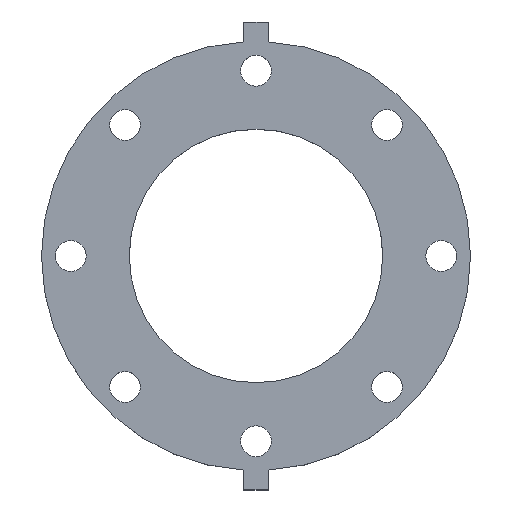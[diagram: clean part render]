
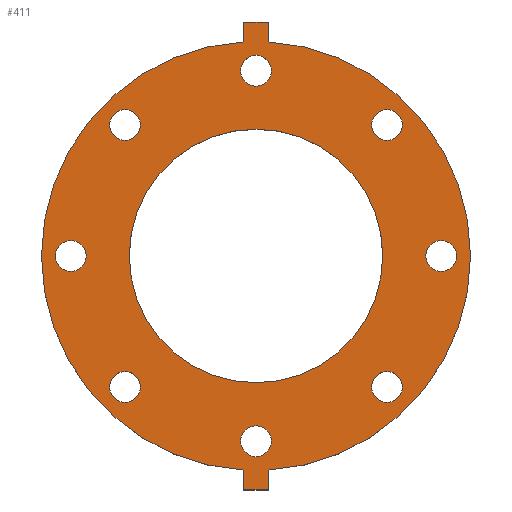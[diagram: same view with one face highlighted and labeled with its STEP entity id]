
A CAD part, top view. The second image highlights one B-rep face of the part: STEP entity #411.
In plain terms, the highlighted planar face has unit normal (0, 0, 1).
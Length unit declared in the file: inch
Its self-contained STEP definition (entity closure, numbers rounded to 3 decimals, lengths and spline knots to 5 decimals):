
#14=FACE_BOUND('',#77,.T.);
#15=FACE_BOUND('',#78,.T.);
#16=FACE_BOUND('',#79,.T.);
#17=FACE_BOUND('',#80,.T.);
#18=FACE_BOUND('',#81,.T.);
#19=FACE_BOUND('',#82,.T.);
#20=FACE_BOUND('',#83,.T.);
#21=FACE_BOUND('',#84,.T.);
#22=FACE_BOUND('',#85,.T.);
#38=PLANE('',#472);
#57=FACE_OUTER_BOUND('',#76,.T.);
#76=EDGE_LOOP('',(#329,#330,#331,#332,#333,#334,#335,#336));
#77=EDGE_LOOP('',(#337));
#78=EDGE_LOOP('',(#338));
#79=EDGE_LOOP('',(#339));
#80=EDGE_LOOP('',(#340));
#81=EDGE_LOOP('',(#341));
#82=EDGE_LOOP('',(#342));
#83=EDGE_LOOP('',(#343));
#84=EDGE_LOOP('',(#344));
#85=EDGE_LOOP('',(#345));
#111=LINE('',#665,#140);
#113=LINE('',#670,#142);
#116=LINE('',#674,#145);
#119=LINE('',#682,#148);
#122=LINE('',#686,#151);
#124=LINE('',#689,#153);
#140=VECTOR('',#559,0.3937);
#142=VECTOR('',#563,0.3937);
#145=VECTOR('',#568,0.3937);
#148=VECTOR('',#573,0.3937);
#151=VECTOR('',#578,0.3937);
#153=VECTOR('',#582,0.3937);
#154=CIRCLE('',#434,0.395);
#156=CIRCLE('',#437,0.395);
#158=CIRCLE('',#440,0.395);
#160=CIRCLE('',#443,0.395);
#162=CIRCLE('',#446,0.395);
#164=CIRCLE('',#449,0.395);
#166=CIRCLE('',#452,0.395);
#168=CIRCLE('',#455,0.395);
#171=CIRCLE('',#459,3.25);
#173=CIRCLE('',#462,5.5);
#174=CIRCLE('',#464,5.5);
#176=VERTEX_POINT('',#589);
#178=VERTEX_POINT('',#595);
#180=VERTEX_POINT('',#601);
#182=VERTEX_POINT('',#607);
#184=VERTEX_POINT('',#613);
#186=VERTEX_POINT('',#619);
#188=VERTEX_POINT('',#625);
#190=VERTEX_POINT('',#631);
#193=VERTEX_POINT('',#639);
#195=VERTEX_POINT('',#644);
#197=VERTEX_POINT('',#648);
#199=VERTEX_POINT('',#653);
#200=VERTEX_POINT('',#655);
#203=VERTEX_POINT('',#663);
#205=VERTEX_POINT('',#669);
#208=VERTEX_POINT('',#679);
#209=VERTEX_POINT('',#681);
#210=EDGE_CURVE('',#176,#176,#154,.T.);
#213=EDGE_CURVE('',#178,#178,#156,.T.);
#216=EDGE_CURVE('',#180,#180,#158,.T.);
#219=EDGE_CURVE('',#182,#182,#160,.T.);
#222=EDGE_CURVE('',#184,#184,#162,.T.);
#225=EDGE_CURVE('',#186,#186,#164,.T.);
#228=EDGE_CURVE('',#188,#188,#166,.T.);
#231=EDGE_CURVE('',#190,#190,#168,.T.);
#236=EDGE_CURVE('',#193,#193,#171,.T.);
#240=EDGE_CURVE('',#195,#197,#173,.T.);
#242=EDGE_CURVE('',#200,#199,#174,.T.);
#247=EDGE_CURVE('',#197,#203,#111,.T.);
#249=EDGE_CURVE('',#205,#200,#113,.T.);
#252=EDGE_CURVE('',#203,#205,#116,.T.);
#255=EDGE_CURVE('',#209,#208,#119,.T.);
#258=EDGE_CURVE('',#199,#209,#122,.T.);
#260=EDGE_CURVE('',#208,#195,#124,.T.);
#329=ORIENTED_EDGE('',*,*,#260,.T.);
#330=ORIENTED_EDGE('',*,*,#240,.T.);
#331=ORIENTED_EDGE('',*,*,#247,.T.);
#332=ORIENTED_EDGE('',*,*,#252,.T.);
#333=ORIENTED_EDGE('',*,*,#249,.T.);
#334=ORIENTED_EDGE('',*,*,#242,.T.);
#335=ORIENTED_EDGE('',*,*,#258,.T.);
#336=ORIENTED_EDGE('',*,*,#255,.T.);
#337=ORIENTED_EDGE('',*,*,#210,.T.);
#338=ORIENTED_EDGE('',*,*,#213,.T.);
#339=ORIENTED_EDGE('',*,*,#216,.T.);
#340=ORIENTED_EDGE('',*,*,#219,.T.);
#341=ORIENTED_EDGE('',*,*,#222,.T.);
#342=ORIENTED_EDGE('',*,*,#225,.T.);
#343=ORIENTED_EDGE('',*,*,#228,.T.);
#344=ORIENTED_EDGE('',*,*,#231,.T.);
#345=ORIENTED_EDGE('',*,*,#236,.T.);
#411=ADVANCED_FACE('',(#57,#14,#15,#16,#17,#18,#19,#20,#21,#22),#38,.T.);
#434=AXIS2_PLACEMENT_3D('',#590,#478,#479);
#437=AXIS2_PLACEMENT_3D('',#596,#485,#486);
#440=AXIS2_PLACEMENT_3D('',#602,#492,#493);
#443=AXIS2_PLACEMENT_3D('',#608,#499,#500);
#446=AXIS2_PLACEMENT_3D('',#614,#506,#507);
#449=AXIS2_PLACEMENT_3D('',#620,#513,#514);
#452=AXIS2_PLACEMENT_3D('',#626,#520,#521);
#455=AXIS2_PLACEMENT_3D('',#632,#527,#528);
#459=AXIS2_PLACEMENT_3D('',#641,#537,#538);
#462=AXIS2_PLACEMENT_3D('',#650,#545,#546);
#464=AXIS2_PLACEMENT_3D('',#656,#550,#551);
#472=AXIS2_PLACEMENT_3D('',#690,#583,#584);
#478=DIRECTION('center_axis',(0.,0.,-1.));
#479=DIRECTION('ref_axis',(-0.707,-0.707,0.));
#485=DIRECTION('center_axis',(0.,0.,-1.));
#486=DIRECTION('ref_axis',(-1.,0.,0.));
#492=DIRECTION('center_axis',(0.,0.,-1.));
#493=DIRECTION('ref_axis',(-0.707,0.707,0.));
#499=DIRECTION('center_axis',(0.,0.,-1.));
#500=DIRECTION('ref_axis',(0.,1.,0.));
#506=DIRECTION('center_axis',(0.,0.,-1.));
#507=DIRECTION('ref_axis',(0.707,0.707,0.));
#513=DIRECTION('center_axis',(0.,0.,-1.));
#514=DIRECTION('ref_axis',(1.,0.,0.));
#520=DIRECTION('center_axis',(0.,0.,-1.));
#521=DIRECTION('ref_axis',(0.707,-0.707,0.));
#527=DIRECTION('center_axis',(0.,0.,-1.));
#528=DIRECTION('ref_axis',(0.,-1.,0.));
#537=DIRECTION('center_axis',(0.,0.,-1.));
#538=DIRECTION('ref_axis',(0.,-1.,0.));
#545=DIRECTION('center_axis',(0.,0.,1.));
#546=DIRECTION('ref_axis',(0.,1.,0.));
#550=DIRECTION('center_axis',(0.,0.,1.));
#551=DIRECTION('ref_axis',(0.,1.,0.));
#559=DIRECTION('',(0.,-1.,0.));
#563=DIRECTION('',(0.,1.,0.));
#568=DIRECTION('',(1.,0.,0.));
#573=DIRECTION('',(-1.,0.,0.));
#578=DIRECTION('',(0.,1.,0.));
#582=DIRECTION('',(0.,-1.,0.));
#583=DIRECTION('center_axis',(0.,0.,1.));
#584=DIRECTION('ref_axis',(0.,1.,0.));
#589=CARTESIAN_POINT('',(-3.07945,3.63806,1.));
#590=CARTESIAN_POINT('Origin',(-3.35876,3.35876,1.));
#595=CARTESIAN_POINT('',(0.395,4.75,1.));
#596=CARTESIAN_POINT('Origin',(0.,4.75,1.));
#601=CARTESIAN_POINT('',(3.63806,3.07945,1.));
#602=CARTESIAN_POINT('Origin',(3.35876,3.35876,1.));
#607=CARTESIAN_POINT('',(4.75,-0.395,1.));
#608=CARTESIAN_POINT('Origin',(4.75,0.,1.));
#613=CARTESIAN_POINT('',(3.07945,-3.63806,1.));
#614=CARTESIAN_POINT('Origin',(3.35876,-3.35876,1.));
#619=CARTESIAN_POINT('',(-0.395,-4.75,1.));
#620=CARTESIAN_POINT('Origin',(0.,-4.75,1.));
#625=CARTESIAN_POINT('',(-3.63806,-3.07945,1.));
#626=CARTESIAN_POINT('Origin',(-3.35876,-3.35876,1.));
#631=CARTESIAN_POINT('',(-4.75,0.395,1.));
#632=CARTESIAN_POINT('Origin',(-4.75,0.,1.));
#639=CARTESIAN_POINT('',(0.,3.25,1.));
#641=CARTESIAN_POINT('Origin',(0.,0.,1.));
#644=CARTESIAN_POINT('',(-0.32,5.49068,1.));
#648=CARTESIAN_POINT('',(-0.32,-5.49068,1.));
#650=CARTESIAN_POINT('Origin',(0.,0.,1.));
#653=CARTESIAN_POINT('',(0.32,5.49068,1.));
#655=CARTESIAN_POINT('',(0.32,-5.49068,1.));
#656=CARTESIAN_POINT('Origin',(0.,0.,1.));
#663=CARTESIAN_POINT('',(-0.32,-6.,1.));
#665=CARTESIAN_POINT('',(-0.32,-5.49068,1.));
#669=CARTESIAN_POINT('',(0.32,-6.,1.));
#670=CARTESIAN_POINT('',(0.32,-6.,1.));
#674=CARTESIAN_POINT('',(-0.32,-6.,1.));
#679=CARTESIAN_POINT('',(-0.32,6.,1.));
#681=CARTESIAN_POINT('',(0.32,6.,1.));
#682=CARTESIAN_POINT('',(0.32,6.,1.));
#686=CARTESIAN_POINT('',(0.32,5.49068,1.));
#689=CARTESIAN_POINT('',(-0.32,6.,1.));
#690=CARTESIAN_POINT('Origin',(0.,5.76575,1.));
